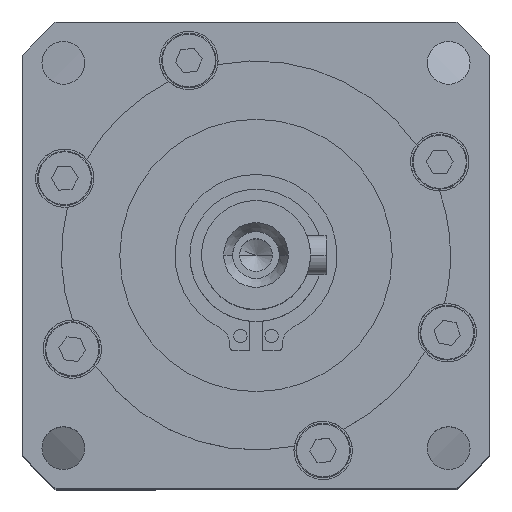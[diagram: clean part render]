
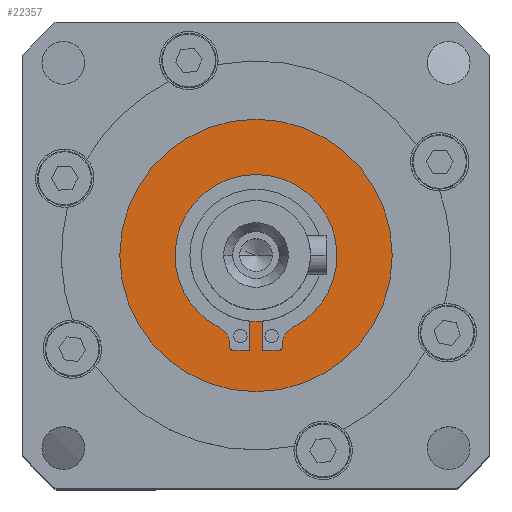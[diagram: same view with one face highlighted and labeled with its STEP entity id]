
A CAD part, top view. The second image highlights one B-rep face of the part: STEP entity #22357.
In plain terms, the highlighted planar face has unit normal (0, 0, 1).
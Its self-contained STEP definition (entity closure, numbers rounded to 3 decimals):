
#200 = CARTESIAN_POINT ( 'NONE',  ( -0.85, -8.457, -1. ) ) ;
#226 = AXIS2_PLACEMENT_3D ( 'NONE', #1207, #17820, #3551 ) ;
#327 = VERTEX_POINT ( 'NONE', #8420 ) ;
#507 = CARTESIAN_POINT ( 'NONE',  ( -2.85, -11.757, -1. ) ) ;
#727 = LINE ( 'NONE', #22300, #3603 ) ;
#816 = ORIENTED_EDGE ( 'NONE', *, *, #25749, .F. ) ;
#820 = LINE ( 'NONE', #8075, #19281 ) ;
#971 = EDGE_CURVE ( 'NONE', #23129, #15654, #20271, .T. ) ;
#1103 = VERTEX_POINT ( 'NONE', #25791 ) ;
#1207 = CARTESIAN_POINT ( 'NONE',  ( -5.85, -11.497, -1. ) ) ;
#1264 = VERTEX_POINT ( 'NONE', #19606 ) ;
#1387 = ORIENTED_EDGE ( 'NONE', *, *, #24257, .F. ) ;
#1597 = PLANE ( 'NONE',  #13781 ) ;
#1905 = CARTESIAN_POINT ( 'NONE',  ( 3.35, -11.497, -1. ) ) ;
#2827 = DIRECTION ( 'NONE',  ( -1., 0., 0. ) ) ;
#2844 = CARTESIAN_POINT ( 'NONE',  ( -4.716, -9.269, -1. ) ) ;
#3551 = DIRECTION ( 'NONE',  ( -1., 0., 0. ) ) ;
#3603 = VECTOR ( 'NONE', #8265, 1000. ) ;
#3787 = DIRECTION ( 'NONE',  ( 0., 1., 0. ) ) ;
#3935 = EDGE_CURVE ( 'NONE', #21633, #10223, #24876, .T. ) ;
#3943 = DIRECTION ( 'NONE',  ( -1., 0., 0. ) ) ;
#4150 = AXIS2_PLACEMENT_3D ( 'NONE', #6067, #22509, #8485 ) ;
#4470 = EDGE_CURVE ( 'NONE', #21207, #28265, #17275, .T. ) ;
#4635 = CARTESIAN_POINT ( 'NONE',  ( 3.35, 0., -1. ) ) ;
#4674 = FACE_BOUND ( 'NONE', #11631, .T. ) ;
#5177 = DIRECTION ( 'NONE',  ( 0., 1., 0. ) ) ;
#5802 = EDGE_CURVE ( 'NONE', #10034, #15612, #727, .T. ) ;
#6067 = CARTESIAN_POINT ( 'NONE',  ( 2.85, -11.757, -1. ) ) ;
#6890 = EDGE_CURVE ( 'NONE', #1103, #22008, #27622, .T. ) ;
#7175 = ORIENTED_EDGE ( 'NONE', *, *, #6890, .F. ) ;
#7221 = CARTESIAN_POINT ( 'NONE',  ( 3.35, -11.757, -1. ) ) ;
#7242 = AXIS2_PLACEMENT_3D ( 'NONE', #7866, #24244, #10300 ) ;
#7504 = EDGE_CURVE ( 'NONE', #15654, #19881, #11910, .T. ) ;
#7555 = DIRECTION ( 'NONE',  ( 0., 0., 1. ) ) ;
#7677 = CARTESIAN_POINT ( 'NONE',  ( 0.85, -12.257, -1. ) ) ;
#7776 = AXIS2_PLACEMENT_3D ( 'NONE', #11235, #27459, #13612 ) ;
#7866 = CARTESIAN_POINT ( 'NONE',  ( 0., 0., -1. ) ) ;
#7958 = AXIS2_PLACEMENT_3D ( 'NONE', #23388, #9411, #25699 ) ;
#8020 = ORIENTED_EDGE ( 'NONE', *, *, #971, .F. ) ;
#8075 = CARTESIAN_POINT ( 'NONE',  ( 0.85, 0., -1. ) ) ;
#8163 = EDGE_CURVE ( 'NONE', #15612, #21633, #26098, .T. ) ;
#8254 = CIRCLE ( 'NONE', #7242, 10.4 ) ;
#8265 = DIRECTION ( 'NONE',  ( 1., 0., 0. ) ) ;
#8420 = CARTESIAN_POINT ( 'NONE',  ( 17.5, 0., -1. ) ) ;
#8485 = DIRECTION ( 'NONE',  ( -1., 0., 0. ) ) ;
#9042 = ORIENTED_EDGE ( 'NONE', *, *, #4470, .F. ) ;
#9219 = CARTESIAN_POINT ( 'NONE',  ( 2.85, -12.257, -1. ) ) ;
#9411 = DIRECTION ( 'NONE',  ( 0., 0., 1. ) ) ;
#9830 = ORIENTED_EDGE ( 'NONE', *, *, #8163, .F. ) ;
#9941 = DIRECTION ( 'NONE',  ( 0., 0., 1. ) ) ;
#10034 = VERTEX_POINT ( 'NONE', #7677 ) ;
#10223 = VERTEX_POINT ( 'NONE', #1905 ) ;
#10300 = DIRECTION ( 'NONE',  ( -1., 0., 0. ) ) ;
#10473 = AXIS2_PLACEMENT_3D ( 'NONE', #27414, #27297, #27202 ) ;
#11004 = FACE_OUTER_BOUND ( 'NONE', #24169, .T. ) ;
#11235 = CARTESIAN_POINT ( 'NONE',  ( 5.85, -11.497, -1. ) ) ;
#11631 = EDGE_LOOP ( 'NONE', ( #27481, #7175, #26808, #15381, #8020, #816, #28141, #24438, #9830, #25592, #21627, #9042, #1387, #21318 ) ) ;
#11756 = EDGE_CURVE ( 'NONE', #10223, #28595, #23911, .T. ) ;
#11799 = CARTESIAN_POINT ( 'NONE',  ( -3.35, -11.757, -1. ) ) ;
#11910 = CIRCLE ( 'NONE', #16521, 10.4 ) ;
#12623 = CARTESIAN_POINT ( 'NONE',  ( 10.4, 0., -1. ) ) ;
#13096 = CARTESIAN_POINT ( 'NONE',  ( 4.716, -9.269, -1. ) ) ;
#13119 = EDGE_CURVE ( 'NONE', #24661, #327, #20689, .T. ) ;
#13354 = CIRCLE ( 'NONE', #28151, 0.5 ) ;
#13612 = DIRECTION ( 'NONE',  ( -1., 0., 0. ) ) ;
#13781 = AXIS2_PLACEMENT_3D ( 'NONE', #15503, #18213, #3943 ) ;
#14479 = EDGE_CURVE ( 'NONE', #19881, #1103, #25723, .T. ) ;
#14484 = ORIENTED_EDGE ( 'NONE', *, *, #21995, .T. ) ;
#14792 = AXIS2_PLACEMENT_3D ( 'NONE', #28363, #28285, #28089 ) ;
#14973 = EDGE_CURVE ( 'NONE', #28265, #10034, #820, .T. ) ;
#15348 = VECTOR ( 'NONE', #20108, 1000. ) ;
#15381 = ORIENTED_EDGE ( 'NONE', *, *, #7504, .F. ) ;
#15503 = CARTESIAN_POINT ( 'NONE',  ( 0., 0., -1. ) ) ;
#15612 = VERTEX_POINT ( 'NONE', #9219 ) ;
#15654 = VERTEX_POINT ( 'NONE', #30229 ) ;
#16175 = VERTEX_POINT ( 'NONE', #27684 ) ;
#16521 = AXIS2_PLACEMENT_3D ( 'NONE', #21661, #7555, #23947 ) ;
#17093 = DIRECTION ( 'NONE',  ( 0., 0., 1. ) ) ;
#17205 = AXIS2_PLACEMENT_3D ( 'NONE', #23891, #9941, #26204 ) ;
#17275 = CIRCLE ( 'NONE', #10473, 8.5 ) ;
#17820 = DIRECTION ( 'NONE',  ( 0., 0., -1. ) ) ;
#18056 = CARTESIAN_POINT ( 'NONE',  ( -0.85, 0., -1. ) ) ;
#18213 = DIRECTION ( 'NONE',  ( 0., 0., -1. ) ) ;
#18677 = EDGE_CURVE ( 'NONE', #16175, #1264, #23889, .T. ) ;
#19281 = VECTOR ( 'NONE', #22133, 1000. ) ;
#19606 = CARTESIAN_POINT ( 'NONE',  ( -0.85, -12.257, -1. ) ) ;
#19853 = ORIENTED_EDGE ( 'NONE', *, *, #13119, .T. ) ;
#19881 = VERTEX_POINT ( 'NONE', #2844 ) ;
#20108 = DIRECTION ( 'NONE',  ( 0., -1., 0. ) ) ;
#20271 = CIRCLE ( 'NONE', #14792, 10.4 ) ;
#20689 = CIRCLE ( 'NONE', #17205, 17.5 ) ;
#20846 = LINE ( 'NONE', #18056, #26911 ) ;
#21207 = VERTEX_POINT ( 'NONE', #200 ) ;
#21318 = ORIENTED_EDGE ( 'NONE', *, *, #18677, .F. ) ;
#21627 = ORIENTED_EDGE ( 'NONE', *, *, #14973, .F. ) ;
#21633 = VERTEX_POINT ( 'NONE', #7221 ) ;
#21661 = CARTESIAN_POINT ( 'NONE',  ( 0., 0., -1. ) ) ;
#21995 = EDGE_CURVE ( 'NONE', #327, #24661, #29144, .T. ) ;
#22008 = VERTEX_POINT ( 'NONE', #11799 ) ;
#22133 = DIRECTION ( 'NONE',  ( 0., -1., 0. ) ) ;
#22300 = CARTESIAN_POINT ( 'NONE',  ( 0., -12.257, -1. ) ) ;
#22357 = ADVANCED_FACE ( 'NONE', ( #11004, #4674 ), #1597, .F. ) ;
#22509 = DIRECTION ( 'NONE',  ( 0., 0., 1. ) ) ;
#23129 = VERTEX_POINT ( 'NONE', #12623 ) ;
#23172 = CARTESIAN_POINT ( 'NONE',  ( 0., -12.257, -1. ) ) ;
#23388 = CARTESIAN_POINT ( 'NONE',  ( 0., 0., -1. ) ) ;
#23889 = LINE ( 'NONE', #23172, #23946 ) ;
#23891 = CARTESIAN_POINT ( 'NONE',  ( 0., 0., -1. ) ) ;
#23911 = CIRCLE ( 'NONE', #7776, 2.5 ) ;
#23946 = VECTOR ( 'NONE', #25192, 1000. ) ;
#23947 = DIRECTION ( 'NONE',  ( -1., 0., 0. ) ) ;
#24076 = VECTOR ( 'NONE', #5177, 1000. ) ;
#24169 = EDGE_LOOP ( 'NONE', ( #14484, #19853 ) ) ;
#24244 = DIRECTION ( 'NONE',  ( 0., 0., 1. ) ) ;
#24257 = EDGE_CURVE ( 'NONE', #1264, #21207, #20846, .T. ) ;
#24438 = ORIENTED_EDGE ( 'NONE', *, *, #3935, .F. ) ;
#24661 = VERTEX_POINT ( 'NONE', #28591 ) ;
#24876 = LINE ( 'NONE', #4635, #24076 ) ;
#25192 = DIRECTION ( 'NONE',  ( 1., 0., 0. ) ) ;
#25592 = ORIENTED_EDGE ( 'NONE', *, *, #5802, .F. ) ;
#25699 = DIRECTION ( 'NONE',  ( 1., 0., 0. ) ) ;
#25723 = CIRCLE ( 'NONE', #226, 2.5 ) ;
#25749 = EDGE_CURVE ( 'NONE', #28595, #23129, #8254, .T. ) ;
#25791 = CARTESIAN_POINT ( 'NONE',  ( -3.35, -11.497, -1. ) ) ;
#26098 = CIRCLE ( 'NONE', #4150, 0.5 ) ;
#26204 = DIRECTION ( 'NONE',  ( 1., 0., 0. ) ) ;
#26700 = CARTESIAN_POINT ( 'NONE',  ( -3.35, 0., -1. ) ) ;
#26808 = ORIENTED_EDGE ( 'NONE', *, *, #14479, .F. ) ;
#26911 = VECTOR ( 'NONE', #3787, 1000. ) ;
#27202 = DIRECTION ( 'NONE',  ( -1., 0., 0. ) ) ;
#27297 = DIRECTION ( 'NONE',  ( 0., 0., 1. ) ) ;
#27414 = CARTESIAN_POINT ( 'NONE',  ( 0., 0., -1. ) ) ;
#27459 = DIRECTION ( 'NONE',  ( 0., 0., -1. ) ) ;
#27481 = ORIENTED_EDGE ( 'NONE', *, *, #29951, .F. ) ;
#27622 = LINE ( 'NONE', #26700, #15348 ) ;
#27684 = CARTESIAN_POINT ( 'NONE',  ( -2.85, -12.257, -1. ) ) ;
#28089 = DIRECTION ( 'NONE',  ( -1., 0., 0. ) ) ;
#28141 = ORIENTED_EDGE ( 'NONE', *, *, #11756, .F. ) ;
#28151 = AXIS2_PLACEMENT_3D ( 'NONE', #507, #17093, #2827 ) ;
#28265 = VERTEX_POINT ( 'NONE', #29794 ) ;
#28285 = DIRECTION ( 'NONE',  ( 0., 0., 1. ) ) ;
#28363 = CARTESIAN_POINT ( 'NONE',  ( 0., 0., -1. ) ) ;
#28591 = CARTESIAN_POINT ( 'NONE',  ( -17.5, 0., -1. ) ) ;
#28595 = VERTEX_POINT ( 'NONE', #13096 ) ;
#29144 = CIRCLE ( 'NONE', #7958, 17.5 ) ;
#29794 = CARTESIAN_POINT ( 'NONE',  ( 0.85, -8.457, -1. ) ) ;
#29951 = EDGE_CURVE ( 'NONE', #22008, #16175, #13354, .T. ) ;
#30229 = CARTESIAN_POINT ( 'NONE',  ( -10.4, 0., -1. ) ) ;
